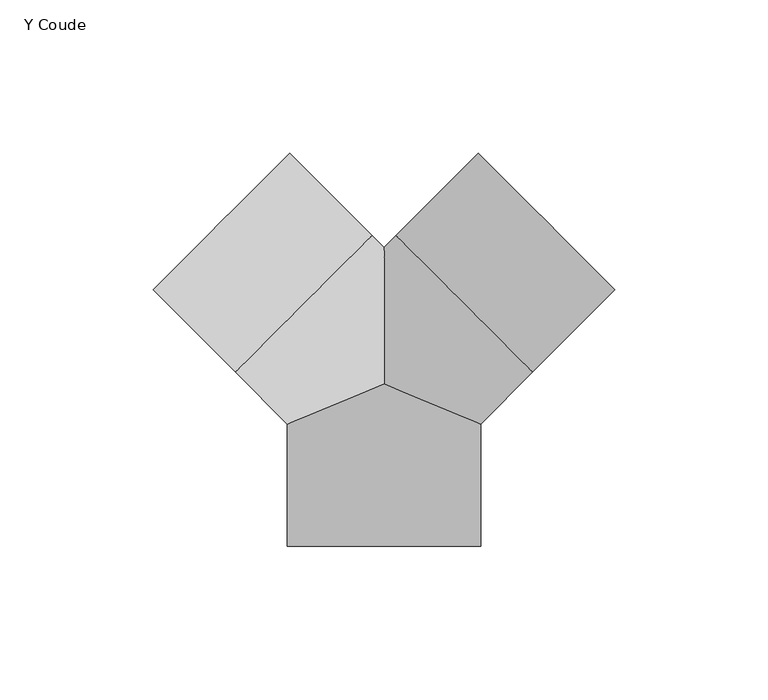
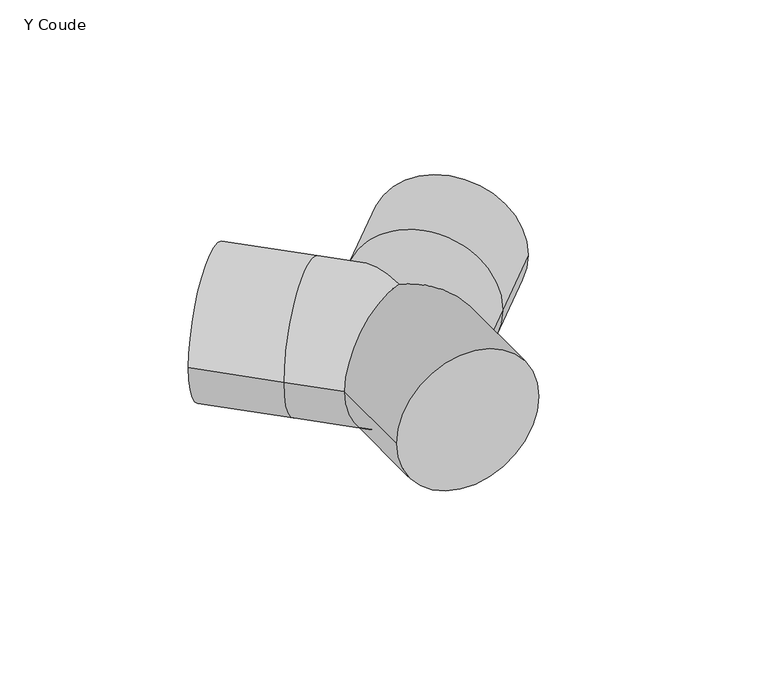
"""IFC4 building model written with IfcOpenShell, lengths in millimetres: pipe fitting geometry, 01051345 : Y Coude."""

from ifc_helpers import new_model, si_unit, frame, origin, place, context, project, spatial, circle_curve, ellipse_curve, source, transform, mapped, element, save
from ifc_brep_helpers import plane_surface, cylinder_surface, advanced_brep


def y_coude_30094963(model_context):
    return source(origin(), model_context, "Body", "AdvancedBrep", [
        advanced_brep(
        [(-3.8890873, 48.4368145, 0.0), (-48.4368145, 3.8890873, 0.0), (-31.5, -13.0477272, 0.0), (0.0, 0.0, 31.5), (0.0, 44.5477272, 0.0), (0.0, 0.0, -31.5), (-30.759145, 75.3068722, 0.0), (-75.3068722, 30.759145, 0.0), (48.4368145, 3.8890873, 0.0), (3.8890873, 48.4368145, 0.0), (31.5, -13.0477272, 0.0), (75.3068722, 30.759145, 0.0), (30.759145, 75.3068722, 0.0), (-31.5, -53.0, 0.0), (31.5, -53.0, 0.0)],
        [
            (0, 1, circle_curve(frame((-26.1629509, 26.1629509, 0.0), z_axis=(0.7071067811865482, -0.707106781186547, 0.0), x_axis=(-0.707106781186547, -0.7071067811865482, 0.0)), 31.5)),
            (1, 2),
            (2, 3, ellipse_curve(frame((0.0, 0.0, 0.0), z_axis=(-0.38268343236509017, 0.9238795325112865, 0.0), x_axis=(0.9238795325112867, 0.38268343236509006, 0.0)), 34.0953543, 31.5)),
            (3, 4, ellipse_curve(frame((0.0, 0.0, 0.0), z_axis=(-1.0, 0.0, 0.0), x_axis=(0.0, -1.0, 0.0)), 44.5477272, 31.5)),
            (4, 0),
            (1, 0, circle_curve(frame((-26.1629509, 26.1629509, 0.0), z_axis=(0.7071067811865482, -0.707106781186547, 0.0), x_axis=(-0.707106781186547, -0.7071067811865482, 0.0)), 31.5)),
            (4, 5, ellipse_curve(frame((0.0, 0.0, 0.0), z_axis=(-1.0, 0.0, 0.0), x_axis=(0.0, -1.0, 0.0)), 44.5477272, 31.5)),
            (5, 2, ellipse_curve(frame((0.0, 0.0, 0.0), z_axis=(-0.38268343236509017, 0.9238795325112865, 0.0), x_axis=(0.9238795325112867, 0.38268343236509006, 0.0)), 34.0953543, 31.5)),
            (6, 7, circle_curve(frame((-53.0330086, 53.0330086, 0.0), z_axis=(-0.7071067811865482, 0.707106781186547, 0.0), x_axis=(-0.707106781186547, -0.7071067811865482, 0.0)), 31.5)),
            (7, 6, circle_curve(frame((-53.0330086, 53.0330086, 0.0), z_axis=(-0.7071067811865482, 0.707106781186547, 0.0), x_axis=(-0.707106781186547, -0.7071067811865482, 0.0)), 31.5)),
            (0, 6),
            (7, 1),
            (8, 9, circle_curve(frame((26.1629509, 26.1629509, 0.0), z_axis=(-0.7071067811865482, -0.7071067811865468, 0.0), x_axis=(-0.7071067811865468, 0.7071067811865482, 0.0)), 31.5)),
            (9, 4),
            (3, 10, ellipse_curve(frame((0.0, 0.0, 0.0), z_axis=(0.3826834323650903, 0.9238795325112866, 0.0), x_axis=(-0.9238795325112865, 0.38268343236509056, 0.0)), 34.0953543, 31.5)),
            (10, 8),
            (9, 8, circle_curve(frame((26.1629509, 26.1629509, 0.0), z_axis=(-0.7071067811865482, -0.7071067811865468, 0.0), x_axis=(-0.7071067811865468, 0.7071067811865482, 0.0)), 31.5)),
            (10, 5, ellipse_curve(frame((0.0, 0.0, 0.0), z_axis=(0.3826834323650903, 0.9238795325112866, 0.0), x_axis=(-0.9238795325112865, 0.38268343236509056, 0.0)), 34.0953543, 31.5)),
            (11, 12, circle_curve(frame((53.0330086, 53.0330086, 0.0), z_axis=(0.7071067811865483, 0.7071067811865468, 0.0), x_axis=(-0.7071067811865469, 0.7071067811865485, 0.0)), 31.5)),
            (12, 11, circle_curve(frame((53.0330086, 53.0330086, 0.0), z_axis=(0.7071067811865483, 0.7071067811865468, 0.0), x_axis=(-0.7071067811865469, 0.7071067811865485, 0.0)), 31.5)),
            (8, 11),
            (12, 9),
            (13, 14, circle_curve(frame((0.0, -53.0, 0.0), z_axis=(0.0, -1.0, 0.0), x_axis=(1.0, 0.0, 0.0)), 31.5)),
            (14, 13, circle_curve(frame((0.0, -53.0, 0.0), z_axis=(0.0, -1.0, 0.0), x_axis=(1.0, 0.0, 0.0)), 31.5)),
            (14, 10),
            (2, 13),
        ],
        [
            cylinder_surface(frame((0.0, 0.0, 0.0), z_axis=(0.7071067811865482, -0.707106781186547, 0.0), x_axis=(-0.707106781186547, -0.7071067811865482, 0.0)), 31.5),
            plane_surface(frame((-53.0330086, 53.0330086, 0.0), z_axis=(-0.707106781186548, 0.707106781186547, 0.0), x_axis=(0.0, 0.0, 1.0))),
            cylinder_surface(frame((-26.1629509, 26.1629509, 0.0), z_axis=(0.7071067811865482, -0.707106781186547, 0.0), x_axis=(-0.707106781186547, -0.7071067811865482, 0.0)), 31.5),
            cylinder_surface(frame((0.0, 0.0, 0.0), z_axis=(-0.7071067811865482, -0.7071067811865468, 0.0), x_axis=(-0.7071067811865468, 0.7071067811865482, 0.0)), 31.5),
            plane_surface(frame((53.0330086, 53.0330086, 0.0), z_axis=(0.707106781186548, 0.707106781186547, 0.0), x_axis=(0.0, 0.0, 1.0))),
            cylinder_surface(frame((26.1629509, 26.1629509, 0.0), z_axis=(-0.7071067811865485, -0.7071067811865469, 0.0), x_axis=(-0.7071067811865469, 0.7071067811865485, 0.0)), 31.5),
            plane_surface(frame((0.0, -53.0, 0.0), z_axis=(0.0, -1.0, 0.0), x_axis=(0.0, 0.0, 1.0))),
            cylinder_surface(frame((0.0, 0.0, 0.0), z_axis=(0.0, 1.0, 0.0), x_axis=(1.0, 0.0, 0.0)), 31.5),
        ],
        [
            (0, [[1, 2, 3, 4, 5]]),
            (0, [[6, -5, 7, 8, -2]]),
            (1, [[9, 10]]),
            (2, [[-1, 11, -10, 12]]),
            (2, [[-6, -12, -9, -11]]),
            (3, [[13, 14, -4, 15, 16]]),
            (3, [[17, -16, 18, -7, -14]]),
            (4, [[19, 20]]),
            (5, [[-13, 21, -20, 22]]),
            (5, [[-17, -22, -19, -21]]),
            (6, [[23, 24]]),
            (7, [[-24, 25, -15, -3, 26]]),
            (7, [[-23, -26, -8, -18, -25]]),
        ],
    ),
    ])


if __name__ == "__main__":
    model = new_model("IFC4")
    model_context = context("Model", 3, world=origin())
    ifc_project = project(units=[si_unit("LENGTHUNIT", "METRE", prefix="MILLI")], contexts=[model_context])
    site = spatial("IfcSite", under=ifc_project)
    building = spatial("IfcBuilding", under=site)
    placement = place(None, origin())
    y_coude_shape = y_coude_30094963(model_context)
    element("IfcPipeFitting", 1, ObjectType="01051345 : Y Coude", at=placement, inside=building, context=model_context, shape_type="MappedRepresentation", body=[
        mapped(y_coude_shape, transform((0.0, 0.0, 0.0), x_axis=(1.0, 0.0, 0.0), y_axis=(0.0, 1.0, 0.0), z_axis=(0.0, 0.0, 1.0))),
    ])
    save(model, "model.ifc")
